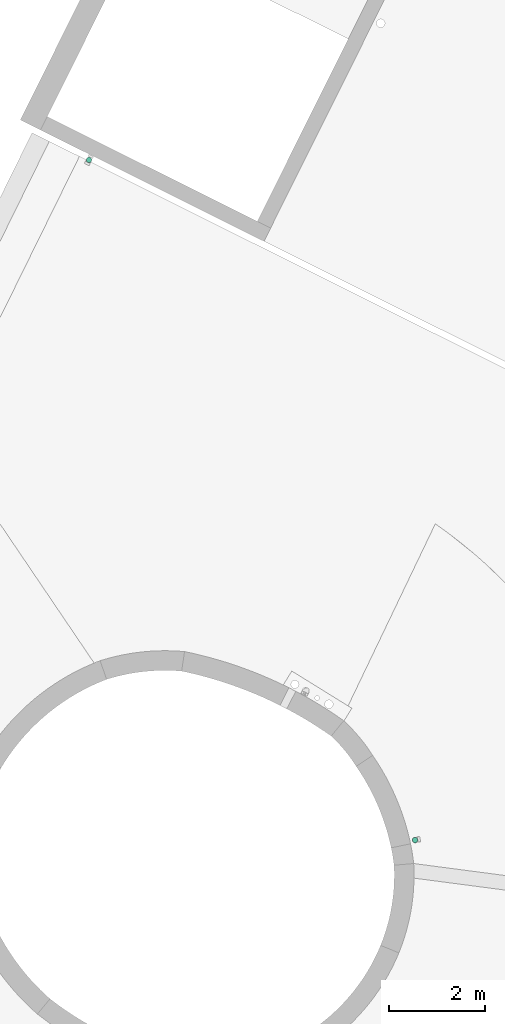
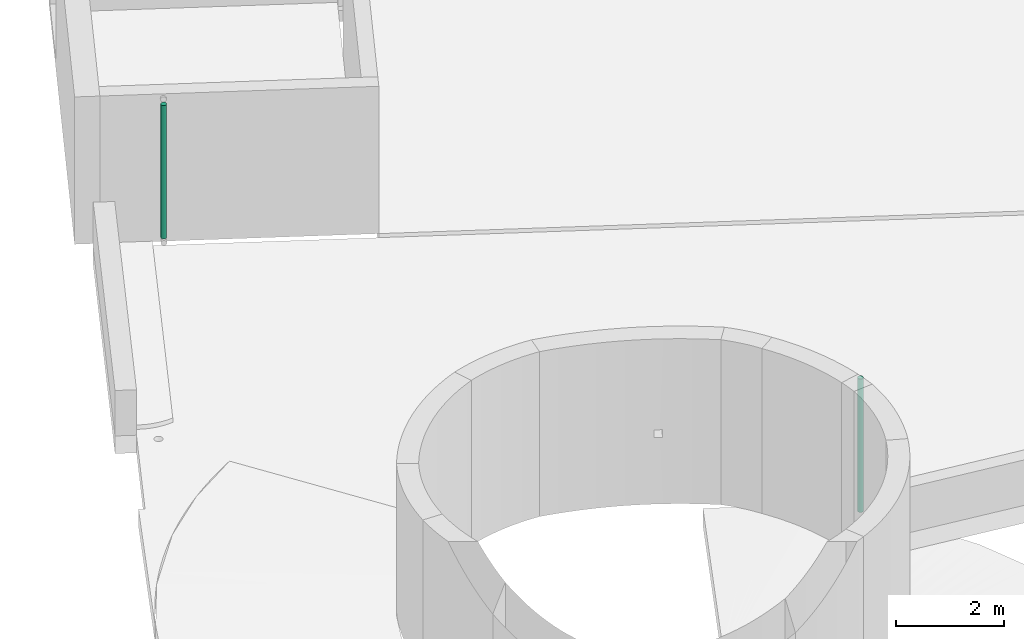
# One storey, part 9 of 34: 2 flow segments.
"""IFC2X3 building model written with IfcOpenShell, lengths in metres."""

from ifc_helpers import new_model, entity, si_unit, converted_unit, derived_unit, direction, frame, origin, origin_2d_with_axis, place, context, subcontext, project, spatial, circle, extrude, type_object, element, save


model = new_model("IFC2X3")

# Units and contexts
model_context = context("Model", 3, precision=1e-05, world=origin(), true_north=direction((0.894925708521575, 0.446215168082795)))
context_of_model = context(None, 3, precision=1e-05, world=origin(), true_north=direction((0.894925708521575, 0.446215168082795)))
body_context = subcontext(model_context, "Body", "Model", "MODEL_VIEW")
ifc_project = project(units=[si_unit("LENGTHUNIT", "METRE"), si_unit("AREAUNIT", "SQUARE_METRE"), si_unit("VOLUMEUNIT", "CUBIC_METRE"), converted_unit("PLANEANGLEUNIT", "DEGREE", entity("IfcRatioMeasure", 0.0174532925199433), si_unit("PLANEANGLEUNIT", "RADIAN"), dimensions=[0, 0, 0, 0, 0, 0, 0]), si_unit("MASSUNIT", "GRAM", prefix="KILO"), si_unit("TIMEUNIT", "SECOND"), si_unit("FREQUENCYUNIT", "HERTZ"), si_unit("THERMODYNAMICTEMPERATUREUNIT", "DEGREE_CELSIUS"), derived_unit("THERMALTRANSMITTANCEUNIT", [(si_unit("MASSUNIT", "GRAM", prefix="KILO"), 1), (si_unit("THERMODYNAMICTEMPERATUREUNIT", "KELVIN"), -1), (si_unit("TIMEUNIT", "SECOND"), -3)]), derived_unit("VOLUMETRICFLOWRATEUNIT", [(si_unit("LENGTHUNIT", "METRE"), 3), (si_unit("TIMEUNIT", "SECOND"), -1)]), si_unit("ELECTRICCURRENTUNIT", "AMPERE"), si_unit("ELECTRICVOLTAGEUNIT", "VOLT"), si_unit("POWERUNIT", "WATT"), si_unit("FORCEUNIT", "NEWTON", prefix="KILO"), si_unit("ILLUMINANCEUNIT", "LUX"), si_unit("LUMINOUSFLUXUNIT", "LUMEN"), si_unit("LUMINOUSINTENSITYUNIT", "CANDELA"), si_unit("PRESSUREUNIT", "PASCAL")], contexts=[model_context, context_of_model])

# Site, building, storey
site_placement = place(None, frame((218.228324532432, 584.720189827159, 0.0), z_axis=(0.0, 0.0, 1.0), x_axis=(0.446215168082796, 0.894925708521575, 0.0)))
site = spatial("IfcSite", under=ifc_project, at=site_placement, Name="Default", CompositionType="ELEMENT")
building_placement = place(site_placement, origin())
building = spatial("IfcBuilding", under=site, at=building_placement, CompositionType="ELEMENT")
storey_placement = place(building_placement, frame((0.0, 0.0, 8.61)))
storey = spatial("IfcBuildingStorey", under=building, at=storey_placement, Name="2 - Piano Secondo", CompositionType="ELEMENT", Elevation=8.61)

# Flow segments
pipe_segment_type = type_object("IfcPipeSegmentType", Name="Tubazione:Pluviale-Tubazione Inox", PredefinedType="NOTDEFINED")
for number, where, name in (
    (1, (-60.6953445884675, 4.75017573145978, 0.165887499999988), "Tubazione:Pluviale-Tubazione Inox"),
    (2, (-70.3253459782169, -7.62342019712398, 0.165887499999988), "Tubazione:Pluviale-Tubazione Inox"),
):
    element("IfcFlowSegment", number, at=place(storey_placement, frame(where)), inside=storey, type_object=pipe_segment_type, Name=name, ObjectType="Tubazione:Pluviale-Tubazione Inox", context=body_context, shape_type="SweptSolid", body=[
        extrude(circle(Radius=0.05715, at=origin_2d_with_axis()), frame((0.0587452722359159, 0.0587452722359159, 0.0)), (0.0, 0.0, 1.0), 3.02252500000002),
    ])

save(model, "model.ifc")
